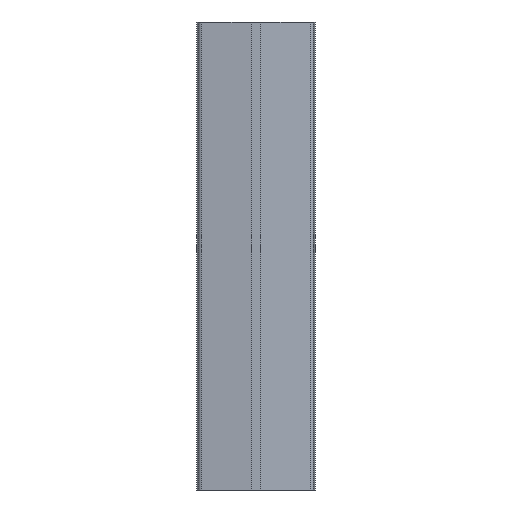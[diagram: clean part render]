
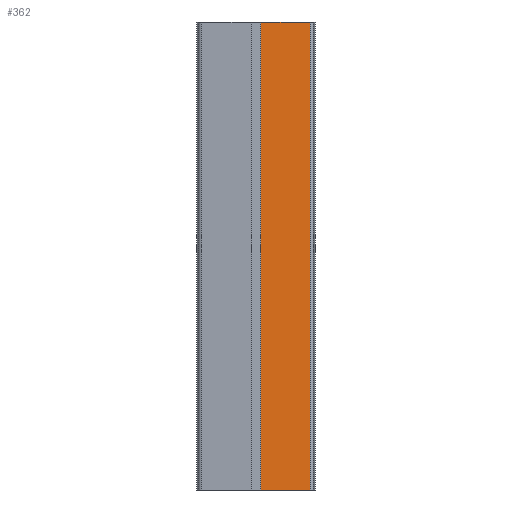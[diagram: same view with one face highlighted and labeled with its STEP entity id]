
A CAD part, front view. The second image highlights one B-rep face of the part: STEP entity #362.
In plain terms, the highlighted planar face has unit normal (0.087, -0.996, 0).
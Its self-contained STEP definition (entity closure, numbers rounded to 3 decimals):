
#214 = EDGE_CURVE ( 'NONE', #372, #370, #2659, .T. ) ;
#220 = ORIENTED_EDGE ( 'NONE', *, *, #236, .T. ) ;
#221 = EDGE_CURVE ( 'NONE', #367, #355, #2737, .T. ) ;
#234 = ORIENTED_EDGE ( 'NONE', *, *, #214, .T. ) ;
#235 = ORIENTED_EDGE ( 'NONE', *, *, #366, .F. ) ;
#236 = EDGE_CURVE ( 'NONE', #370, #355, #2727, .T. ) ;
#270 = ORIENTED_EDGE ( 'NONE', *, *, #221, .F. ) ;
#355 = VERTEX_POINT ( 'NONE', #2686 ) ;
#362 = ADVANCED_FACE ( 'NONE', ( #2761 ), #2674, .F. ) ;
#363 = EDGE_LOOP ( 'NONE', ( #220, #270, #235, #234 ) ) ;
#366 = EDGE_CURVE ( 'NONE', #372, #367, #2679, .T. ) ;
#367 = VERTEX_POINT ( 'NONE', #2770 ) ;
#370 = VERTEX_POINT ( 'NONE', #2708 ) ;
#372 = VERTEX_POINT ( 'NONE', #2707 ) ;
#2658 = CARTESIAN_POINT ( 'NONE',  ( 58.195, 2.847, -500. ) ) ;
#2659 = LINE ( 'NONE', #2658, #2739 ) ;
#2674 = PLANE ( 'NONE',  #2758 ) ;
#2677 = CARTESIAN_POINT ( 'NONE',  ( 58.195, 2.847, -500. ) ) ;
#2679 = LINE ( 'NONE', #2775, #2768 ) ;
#2686 = CARTESIAN_POINT ( 'NONE',  ( 5., -1.807, 0. ) ) ;
#2707 = CARTESIAN_POINT ( 'NONE',  ( 58.195, 2.847, -500. ) ) ;
#2708 = CARTESIAN_POINT ( 'NONE',  ( 58.195, 2.847, 0. ) ) ;
#2726 = CARTESIAN_POINT ( 'NONE',  ( 58.195, 2.847, 0. ) ) ;
#2727 = LINE ( 'NONE', #2726, #2742 ) ;
#2734 = DIRECTION ( 'NONE',  ( 0., 0., 1. ) ) ;
#2735 = VECTOR ( 'NONE', #2734, 1000. ) ;
#2736 = CARTESIAN_POINT ( 'NONE',  ( 5., -1.807, -500. ) ) ;
#2737 = LINE ( 'NONE', #2736, #2735 ) ;
#2738 = DIRECTION ( 'NONE',  ( 0., 0., 1. ) ) ;
#2739 = VECTOR ( 'NONE', #2738, 1000. ) ;
#2741 = DIRECTION ( 'NONE',  ( -0.996, -0.087, 0. ) ) ;
#2742 = VECTOR ( 'NONE', #2741, 1000. ) ;
#2755 = DIRECTION ( 'NONE',  ( -0.087, 0.996, 0. ) ) ;
#2758 = AXIS2_PLACEMENT_3D ( 'NONE', #2677, #2755, #2776 ) ;
#2761 = FACE_OUTER_BOUND ( 'NONE', #363, .T. ) ;
#2768 = VECTOR ( 'NONE', #2774, 1000. ) ;
#2770 = CARTESIAN_POINT ( 'NONE',  ( 5., -1.807, -500. ) ) ;
#2774 = DIRECTION ( 'NONE',  ( -0.996, -0.087, 0. ) ) ;
#2775 = CARTESIAN_POINT ( 'NONE',  ( 58.195, 2.847, -500. ) ) ;
#2776 = DIRECTION ( 'NONE',  ( -0.996, -0.087, 0. ) ) ;
